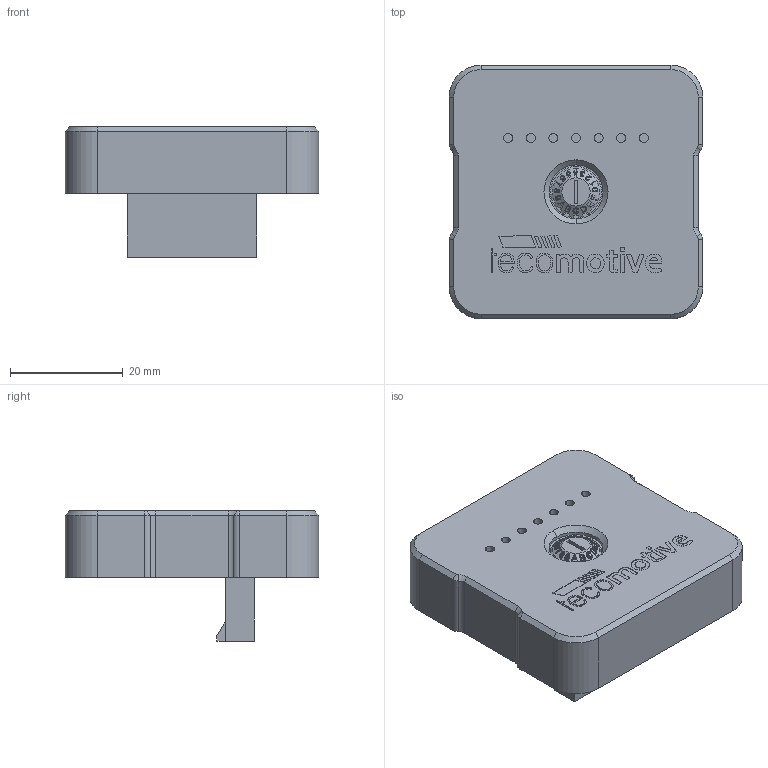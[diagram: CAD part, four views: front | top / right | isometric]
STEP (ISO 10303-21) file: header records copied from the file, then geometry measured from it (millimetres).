
FILE_DESCRIPTION (( 'STEP AP214' ), '1' );
FILE_NAME ('tinyCWA_without_holder.STEP', '2024-01-29T12:57:39', ( '' ), ( '' ), 'STEP 2.0', 'Tecomotive 2024', '' );
FILE_SCHEMA (( 'AUTOMOTIVE_DESIGN' ));
Length unit declared in the file: millimetre
Products named in the file (5): Circuit_board; Visor; Case; Cover; tinyCWA_without_holder
Assembly tree (4 placements, depth 2):
  tinyCWA_without_holder
    Case
    Visor
    Cover
    Circuit_board
Bounding box: 44.9 x 44.9 x 23.09 mm (x, y, z)
Volume: 15338.7 mm3; surface area: 18172.7 mm2
Topology: 22 solids, 22 shells, 2164 faces, 5535 edges, 3508 vertices
Faces by surface type: plane 1169, cylinder 518, bspline 307, sphere 76, cone 64, torus 30
Entity records: 74954 total; most frequent: CARTESIAN_POINT 22045, ORIENTED_EDGE 11070, DIRECTION 9415, EDGE_CURVE 5535, VECTOR 3555, LINE 3555, VERTEX_POINT 3508, AXIS2_PLACEMENT_3D 2930
